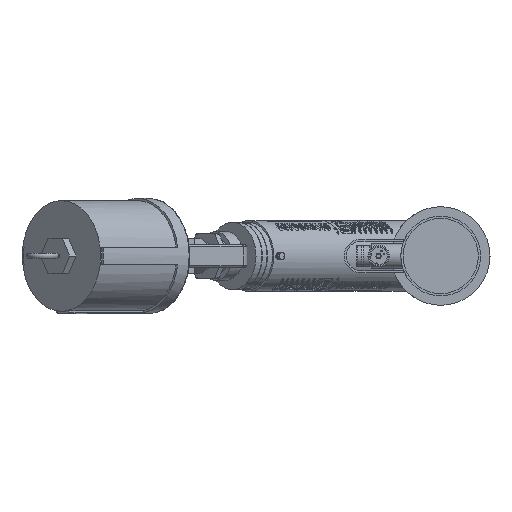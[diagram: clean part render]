
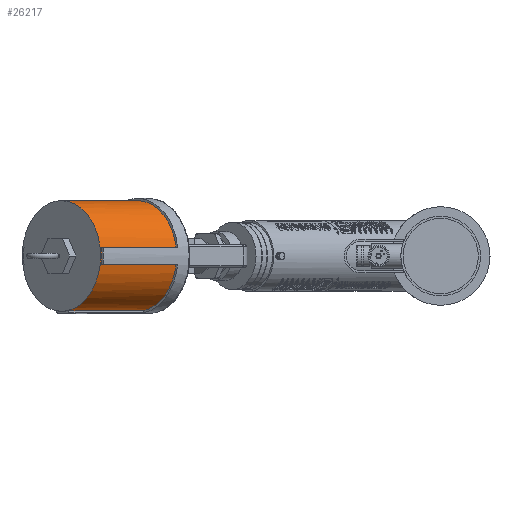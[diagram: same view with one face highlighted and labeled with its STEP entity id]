
A CAD part, left-side view. The second image highlights one B-rep face of the part: STEP entity #26217.
In plain terms, the highlighted cylindrical face has radius 79.375 mm (diameter 158.75 mm), a full revolution.
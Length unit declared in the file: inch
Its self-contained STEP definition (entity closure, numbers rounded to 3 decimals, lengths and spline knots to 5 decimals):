
#71 = DIRECTION ( 'NONE',  ( 0., 0., 1. ) ) ;
#215 = CIRCLE ( 'NONE', #32655, 3.125 ) ;
#1457 = AXIS2_PLACEMENT_3D ( 'NONE', #2630, #30113, #12199 ) ;
#1834 = CIRCLE ( 'NONE', #9472, 3.125 ) ;
#1905 = CARTESIAN_POINT ( 'NONE',  ( 12.02328, 17.46483, -3.08474 ) ) ;
#2630 = CARTESIAN_POINT ( 'NONE',  ( 7.38289, 21.39811, 0. ) ) ;
#3751 = VERTEX_POINT ( 'NONE', #1905 ) ;
#4307 = DIRECTION ( 'NONE',  ( 0., 0., 1. ) ) ;
#4670 = VERTEX_POINT ( 'NONE', #22842 ) ;
#5577 = DIRECTION ( 'NONE',  ( 0.707, -0.707, 0. ) ) ;
#5896 = LINE ( 'NONE', #19927, #12903 ) ;
#5898 = ORIENTED_EDGE ( 'NONE', *, *, #39449, .T. ) ;
#5917 = DIRECTION ( 'NONE',  ( 0., 0., 1. ) ) ;
#6205 = AXIS2_PLACEMENT_3D ( 'NONE', #18770, #14293, #27422 ) ;
#7434 = CARTESIAN_POINT ( 'NONE',  ( 5.27236, 19.14616, 0.5 ) ) ;
#9340 = CARTESIAN_POINT ( 'NONE',  ( 7.38289, 21.39811, 0. ) ) ;
#9472 = AXIS2_PLACEMENT_3D ( 'NONE', #50730, #28068, #55503 ) ;
#9887 = CARTESIAN_POINT ( 'NONE',  ( 7.80715, 21.68095, -3.08474 ) ) ;
#10184 = DIRECTION ( 'NONE',  ( 0.707, -0.707, 0. ) ) ;
#10378 = EDGE_CURVE ( 'NONE', #23184, #33924, #38623, .T. ) ;
#10576 = VECTOR ( 'NONE', #35508, 39.37008 ) ;
#11614 = CYLINDRICAL_SURFACE ( 'NONE', #1457, 3.125 ) ;
#11695 = CARTESIAN_POINT ( 'NONE',  ( 5.27236, 19.14616, -0.5 ) ) ;
#12199 = DIRECTION ( 'NONE',  ( 0., 0., -1. ) ) ;
#12537 = CARTESIAN_POINT ( 'NONE',  ( 6.31264, 21.76126, -3.08474 ) ) ;
#12632 = EDGE_CURVE ( 'NONE', #46573, #16835, #20843, .T. ) ;
#12855 = EDGE_CURVE ( 'NONE', #33924, #3751, #40456, .T. ) ;
#12881 = CIRCLE ( 'NONE', #30043, 3.125 ) ;
#12903 = VECTOR ( 'NONE', #50667, 39.37008 ) ;
#13300 = CARTESIAN_POINT ( 'NONE',  ( 7.10005, 20.97385, -3.08474 ) ) ;
#14293 = DIRECTION ( 'NONE',  ( 0.707, -0.707, 0. ) ) ;
#14345 = EDGE_CURVE ( 'NONE', #3751, #16835, #1834, .T. ) ;
#14390 = ORIENTED_EDGE ( 'NONE', *, *, #14345, .F. ) ;
#14660 = DIRECTION ( 'NONE',  ( 0., 0., -1. ) ) ;
#14727 = VERTEX_POINT ( 'NONE', #25561 ) ;
#16077 = CARTESIAN_POINT ( 'NONE',  ( 8.84743, 24.29605, -0.5 ) ) ;
#16835 = VERTEX_POINT ( 'NONE', #56537 ) ;
#17489 = CIRCLE ( 'NONE', #41307, 3.125 ) ;
#18770 = CARTESIAN_POINT ( 'NONE',  ( 7.4536, 21.3274, 0. ) ) ;
#19250 = EDGE_CURVE ( 'NONE', #46573, #43398, #22909, .T. ) ;
#19569 = VERTEX_POINT ( 'NONE', #27934 ) ;
#19709 = ORIENTED_EDGE ( 'NONE', *, *, #10378, .F. ) ;
#19927 = CARTESIAN_POINT ( 'NONE',  ( 4.48495, 19.93357, 0.5 ) ) ;
#19943 = DIRECTION ( 'NONE',  ( 0.707, -0.707, 0. ) ) ;
#20843 = LINE ( 'NONE', #16077, #39074 ) ;
#20891 = CARTESIAN_POINT ( 'NONE',  ( 9.48848, 14.93004, 0.5 ) ) ;
#21493 = CIRCLE ( 'NONE', #50065, 3.125 ) ;
#21993 = CARTESIAN_POINT ( 'NONE',  ( 9.63484, 23.50864, -0.5 ) ) ;
#22255 = DIRECTION ( 'NONE',  ( 0.707, -0.707, 0. ) ) ;
#22842 = CARTESIAN_POINT ( 'NONE',  ( 9.48848, 14.93004, -0.5 ) ) ;
#22909 = CIRCLE ( 'NONE', #57212, 3.125 ) ;
#23184 = VERTEX_POINT ( 'NONE', #13300 ) ;
#23507 = DIRECTION ( 'NONE',  ( 0.707, -0.707, 0. ) ) ;
#24389 = LINE ( 'NONE', #41415, #42256 ) ;
#25267 = ORIENTED_EDGE ( 'NONE', *, *, #26342, .F. ) ;
#25561 = CARTESIAN_POINT ( 'NONE',  ( 13.85096, 19.29252, 0.5 ) ) ;
#26217 = ADVANCED_FACE ( 'NONE', ( #34289, #52489 ), #11614, .T. ) ;
#26342 = EDGE_CURVE ( 'NONE', #35042, #45201, #21493, .T. ) ;
#26357 = EDGE_CURVE ( 'NONE', #14727, #38593, #12881, .T. ) ;
#27373 = CARTESIAN_POINT ( 'NONE',  ( 11.31617, 16.75772, -3.08474 ) ) ;
#27422 = DIRECTION ( 'NONE',  ( 0., 0., 1. ) ) ;
#27934 = CARTESIAN_POINT ( 'NONE',  ( 7.38289, 21.39811, 3.125 ) ) ;
#28068 = DIRECTION ( 'NONE',  ( 0.707, -0.707, 0. ) ) ;
#28159 = EDGE_LOOP ( 'NONE', ( #53638 ) ) ;
#28518 = ORIENTED_EDGE ( 'NONE', *, *, #19250, .F. ) ;
#28915 = VECTOR ( 'NONE', #5577, 39.37008 ) ;
#29637 = ORIENTED_EDGE ( 'NONE', *, *, #43614, .F. ) ;
#30043 = AXIS2_PLACEMENT_3D ( 'NONE', #35369, #53572, #48498 ) ;
#30113 = DIRECTION ( 'NONE',  ( 0.707, -0.707, 0. ) ) ;
#30800 = EDGE_LOOP ( 'NONE', ( #19709, #5898, #44498, #29637, #25267, #47116, #52219, #47388, #28518, #37285, #14390, #41539 ) ) ;
#30885 = CARTESIAN_POINT ( 'NONE',  ( 7.4536, 21.3274, 0. ) ) ;
#31622 = LINE ( 'NONE', #12537, #10576 ) ;
#31682 = VERTEX_POINT ( 'NONE', #27373 ) ;
#32652 = EDGE_CURVE ( 'NONE', #35042, #38593, #5896, .T. ) ;
#32655 = AXIS2_PLACEMENT_3D ( 'NONE', #9340, #45154, #71 ) ;
#33924 = VERTEX_POINT ( 'NONE', #9887 ) ;
#34289 = FACE_OUTER_BOUND ( 'NONE', #30800, .T. ) ;
#35042 = VERTEX_POINT ( 'NONE', #7434 ) ;
#35369 = CARTESIAN_POINT ( 'NONE',  ( 11.66972, 17.11128, 0. ) ) ;
#35508 = DIRECTION ( 'NONE',  ( 0.707, -0.707, 0. ) ) ;
#35975 = CARTESIAN_POINT ( 'NONE',  ( 7.01974, 22.46836, -3.08474 ) ) ;
#37285 = ORIENTED_EDGE ( 'NONE', *, *, #12632, .T. ) ;
#38429 = CARTESIAN_POINT ( 'NONE',  ( 7.4536, 21.3274, 0. ) ) ;
#38593 = VERTEX_POINT ( 'NONE', #20891 ) ;
#38623 = CIRCLE ( 'NONE', #6205, 3.125 ) ;
#38752 = CARTESIAN_POINT ( 'NONE',  ( 9.63484, 23.50864, 0.5 ) ) ;
#39074 = VECTOR ( 'NONE', #44117, 39.37008 ) ;
#39449 = EDGE_CURVE ( 'NONE', #23184, #31682, #31622, .T. ) ;
#40456 = LINE ( 'NONE', #35975, #54349 ) ;
#41307 = AXIS2_PLACEMENT_3D ( 'NONE', #55222, #10184, #14660 ) ;
#41415 = CARTESIAN_POINT ( 'NONE',  ( 4.48495, 19.93357, -0.5 ) ) ;
#41539 = ORIENTED_EDGE ( 'NONE', *, *, #12855, .F. ) ;
#42256 = VECTOR ( 'NONE', #23507, 39.37008 ) ;
#42288 = LINE ( 'NONE', #56000, #28915 ) ;
#43398 = VERTEX_POINT ( 'NONE', #38752 ) ;
#43614 = EDGE_CURVE ( 'NONE', #45201, #4670, #24389, .T. ) ;
#43673 = EDGE_CURVE ( 'NONE', #43398, #14727, #42288, .T. ) ;
#44029 = DIRECTION ( 'NONE',  ( 0.707, -0.707, 0. ) ) ;
#44117 = DIRECTION ( 'NONE',  ( 0.707, -0.707, 0. ) ) ;
#44498 = ORIENTED_EDGE ( 'NONE', *, *, #56811, .F. ) ;
#45154 = DIRECTION ( 'NONE',  ( -0.707, 0.707, 0. ) ) ;
#45201 = VERTEX_POINT ( 'NONE', #11695 ) ;
#46573 = VERTEX_POINT ( 'NONE', #21993 ) ;
#47116 = ORIENTED_EDGE ( 'NONE', *, *, #32652, .T. ) ;
#47388 = ORIENTED_EDGE ( 'NONE', *, *, #43673, .F. ) ;
#48498 = DIRECTION ( 'NONE',  ( 0., 0., -1. ) ) ;
#50065 = AXIS2_PLACEMENT_3D ( 'NONE', #30885, #44029, #4307 ) ;
#50667 = DIRECTION ( 'NONE',  ( 0.707, -0.707, 0. ) ) ;
#50730 = CARTESIAN_POINT ( 'NONE',  ( 11.66972, 17.11128, 0. ) ) ;
#52219 = ORIENTED_EDGE ( 'NONE', *, *, #26357, .F. ) ;
#52489 = FACE_OUTER_BOUND ( 'NONE', #28159, .T. ) ;
#53572 = DIRECTION ( 'NONE',  ( 0.707, -0.707, 0. ) ) ;
#53638 = ORIENTED_EDGE ( 'NONE', *, *, #54952, .F. ) ;
#54349 = VECTOR ( 'NONE', #22255, 39.37008 ) ;
#54952 = EDGE_CURVE ( 'NONE', #19569, #19569, #215, .T. ) ;
#55222 = CARTESIAN_POINT ( 'NONE',  ( 11.66972, 17.11128, 0. ) ) ;
#55503 = DIRECTION ( 'NONE',  ( 0., 0., -1. ) ) ;
#56000 = CARTESIAN_POINT ( 'NONE',  ( 8.84743, 24.29605, 0.5 ) ) ;
#56537 = CARTESIAN_POINT ( 'NONE',  ( 13.85096, 19.29252, -0.5 ) ) ;
#56811 = EDGE_CURVE ( 'NONE', #4670, #31682, #17489, .T. ) ;
#57212 = AXIS2_PLACEMENT_3D ( 'NONE', #38429, #19943, #5917 ) ;
